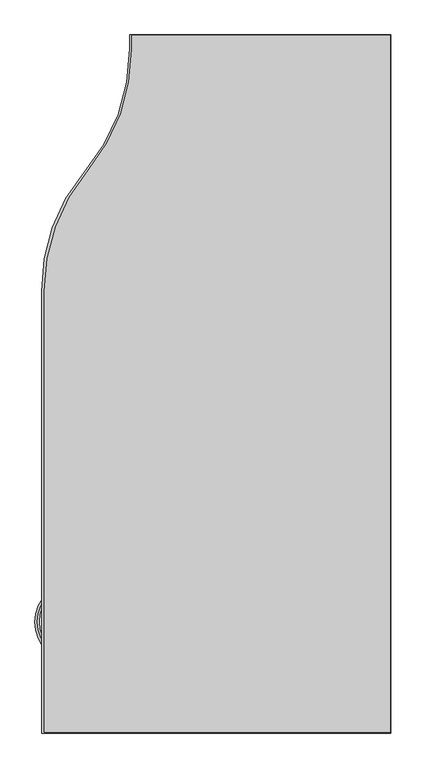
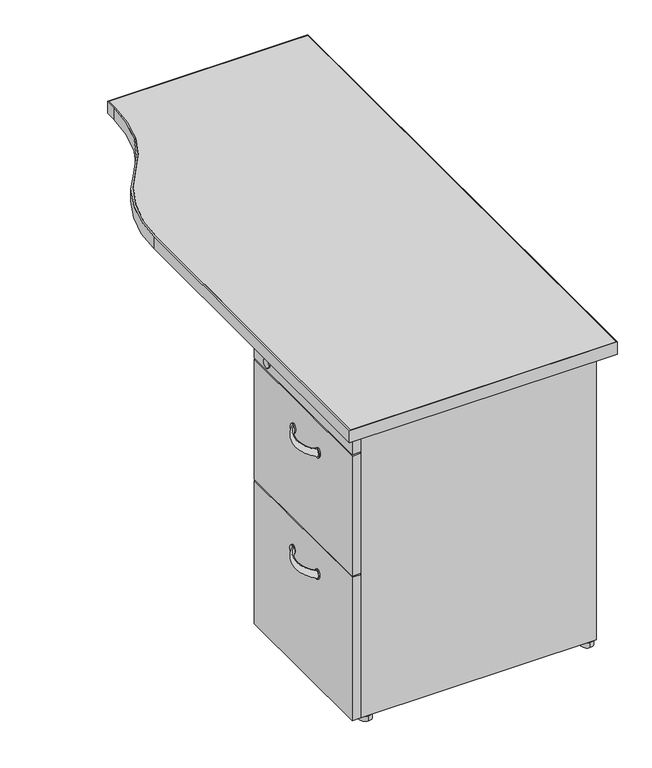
"""IFC4 building model written with IfcOpenShell, lengths in millimetres: furniture geometry, Steelcase - Kick Freestanding - Desk - Single Pedestal Transition Return : 18D x 48W - Right - File/File."""

from ifc_helpers import new_model, si_unit, point, frame, frame_2d, origin, origin_with_axes, place, context, project, spatial, polyline, circle_curve, ellipse_curve, trimmed, segment, composite_curve, outline, extrude, source, transform, mapped, element, save
from ifc_brep_helpers import plane_surface, cylinder_surface, revolved_surface, extruded_surface, advanced_brep


def furniture_ae295d56(model_context):
    return source(origin(), model_context, "Body", "SolidModel", [
        advanced_brep(
        [(1567.1281641, -1621.6132511, 586.4818798), (1567.1281641, -1621.6132511, 569.2783404), (1567.7941808, -1522.4632386, 586.4818798), (1567.7941808, -1522.4632386, 569.2783404)],
        [
            (0, 1, ellipse_curve(frame((1567.1281641, -1621.6132511, 577.8801101), z_axis=(0.7327226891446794, -0.6805273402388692, 0.0), x_axis=(0.0, 0.0, -1.0)), 8.6017697, 3.6448177)),
            (1, 0, ellipse_curve(frame((1567.1281641, -1621.6132511, 577.8801101), z_axis=(0.7327226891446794, -0.6805273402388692, 0.0), x_axis=(0.0, 0.0, -1.0)), 8.6017697, 3.6448177)),
            (2, 3, ellipse_curve(frame((1567.7941808, -1522.4632386, 577.8801101), z_axis=(0.7417987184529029, 0.670622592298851, 0.0), x_axis=(0.0, 0.0, -1.0)), 8.6017697, 3.6448177)),
            (3, 2, ellipse_curve(frame((1567.7941808, -1522.4632386, 577.8801101), z_axis=(0.7417987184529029, 0.670622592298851, 0.0), x_axis=(0.0, 0.0, -1.0)), 8.6017697, 3.6448177)),
            (3, 1, circle_curve(frame((1612.8882961, -1572.3433908, 569.2783404), z_axis=(0.0, 0.0, 1.0), x_axis=(-0.6805273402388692, -0.7327226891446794, 0.0)), 67.2421655)),
            (0, 2, circle_curve(frame((1612.8882961, -1572.3433908, 586.4818798), z_axis=(0.0, 0.0, -1.0), x_axis=(-0.6805273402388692, -0.7327226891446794, 0.0)), 67.2421655)),
        ],
        [
            plane_surface(frame((1566.3645897, -1622.4353903, 0.0), z_axis=(0.7327226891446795, -0.6805273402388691, 0.0), x_axis=(0.0, 0.0, 1.0))),
            plane_surface(frame((1567.0417199, -1521.6309157, 0.0), z_axis=(0.7417987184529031, 0.6706225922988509, 0.0), x_axis=(0.0, 0.0, 1.0))),
            revolved_surface(trimmed(ellipse_curve(frame((1567.1281641, -1621.6132511, 577.8801101), z_axis=(0.7327226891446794, -0.6805273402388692, 0.0), x_axis=(0.0, 0.0, -1.0)), 8.6017697, 3.6448177), [point((1567.1281641, -1621.6132511, 586.4818798))], [point((1567.1281641, -1621.6132511, 569.2783404))], True, "CARTESIAN"), (1612.8882961, -1572.3433908, 0.0), (0.0, 0.0, -1.0)),
            revolved_surface(trimmed(ellipse_curve(frame((1567.1281641, -1621.6132511, 577.8801101), z_axis=(0.7327226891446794, -0.6805273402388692, 0.0), x_axis=(0.0, 0.0, -1.0)), 8.6017697, 3.6448177), [point((1567.1281641, -1621.6132511, 569.2783404))], [point((1567.1281641, -1621.6132511, 586.4818798))], True, "CARTESIAN"), (1612.8882961, -1572.3433908, 0.0), (0.0, 0.0, -1.0)),
        ],
        [
            (0, [[1, 2]]),
            (1, [[3, 4]]),
            (2, [[5, -1, 6, -4]]),
            (3, [[-6, -2, -5, -3]]),
        ],
    ),
        advanced_brep(
        [(1567.1281641, -1621.6132511, 293.5881298), (1567.1281641, -1621.6132511, 276.3845904), (1567.7941808, -1522.4632386, 293.5881298), (1567.7941808, -1522.4632386, 276.3845904)],
        [
            (0, 1, ellipse_curve(frame((1567.1281641, -1621.6132511, 284.9863601), z_axis=(0.7327226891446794, -0.6805273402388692, 0.0), x_axis=(0.0, 0.0, -1.0)), 8.6017697, 3.6448177)),
            (1, 0, ellipse_curve(frame((1567.1281641, -1621.6132511, 284.9863601), z_axis=(0.7327226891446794, -0.6805273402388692, 0.0), x_axis=(0.0, 0.0, -1.0)), 8.6017697, 3.6448177)),
            (2, 3, ellipse_curve(frame((1567.7941808, -1522.4632386, 284.9863601), z_axis=(0.7417987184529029, 0.670622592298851, 0.0), x_axis=(0.0, 0.0, -1.0)), 8.6017697, 3.6448177)),
            (3, 2, ellipse_curve(frame((1567.7941808, -1522.4632386, 284.9863601), z_axis=(0.7417987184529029, 0.670622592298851, 0.0), x_axis=(0.0, 0.0, -1.0)), 8.6017697, 3.6448177)),
            (3, 1, circle_curve(frame((1612.8882961, -1572.3433908, 276.3845904), z_axis=(0.0, 0.0, 1.0), x_axis=(-0.6805273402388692, -0.7327226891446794, 0.0)), 67.2421655)),
            (0, 2, circle_curve(frame((1612.8882961, -1572.3433908, 293.5881298), z_axis=(0.0, 0.0, -1.0), x_axis=(-0.6805273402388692, -0.7327226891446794, 0.0)), 67.2421655)),
        ],
        [
            plane_surface(frame((1566.3645897, -1622.4353903, 0.0), z_axis=(0.7327226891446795, -0.6805273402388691, 0.0), x_axis=(0.0, 0.0, 1.0))),
            plane_surface(frame((1567.0417199, -1521.6309157, 0.0), z_axis=(0.7417987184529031, 0.6706225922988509, 0.0), x_axis=(0.0, 0.0, 1.0))),
            revolved_surface(trimmed(ellipse_curve(frame((1567.1281641, -1621.6132511, 284.9863601), z_axis=(0.7327226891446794, -0.6805273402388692, 0.0), x_axis=(0.0, 0.0, -1.0)), 8.6017697, 3.6448177), [point((1567.1281641, -1621.6132511, 293.5881298))], [point((1567.1281641, -1621.6132511, 276.3845904))], True, "CARTESIAN"), (1612.8882961, -1572.3433908, 0.0), (0.0, 0.0, -1.0)),
            revolved_surface(trimmed(ellipse_curve(frame((1567.1281641, -1621.6132511, 284.9863601), z_axis=(0.7327226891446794, -0.6805273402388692, 0.0), x_axis=(0.0, 0.0, -1.0)), 8.6017697, 3.6448177), [point((1567.1281641, -1621.6132511, 276.3845904))], [point((1567.1281641, -1621.6132511, 293.5881298))], True, "CARTESIAN"), (1612.8882961, -1572.3433908, 0.0), (0.0, 0.0, -1.0)),
        ],
        [
            (0, [[1, 2]]),
            (1, [[3, 4]]),
            (2, [[5, -1, 6, -4]]),
            (3, [[-6, -2, -5, -3]]),
        ],
    ),
        advanced_brep(
        [(1564.8733086, -1429.0380273, 671.1566635), (1564.8733086, -1408.7180273, 671.1566635), (1567.9720601, -1429.0380273, 671.1566635), (1567.9720601, -1408.7180273, 671.1566635)],
        [
            (0, 1, circle_curve(frame((1564.8733086, -1418.8780273, 671.1566635), z_axis=(-1.0, 0.0, 0.0), x_axis=(0.0, 1.0, 0.0)), 10.16)),
            (1, 0, circle_curve(frame((1564.8733086, -1418.8780273, 671.1566635), z_axis=(-1.0, 0.0, 0.0), x_axis=(0.0, 1.0, 0.0)), 10.16)),
            (2, 3, circle_curve(frame((1567.9720601, -1418.8780273, 671.1566635), z_axis=(1.0, 0.0, 0.0), x_axis=(0.0, 1.0, 0.0)), 10.16)),
            (3, 2, circle_curve(frame((1567.9720601, -1418.8780273, 671.1566635), z_axis=(1.0, 0.0, 0.0), x_axis=(0.0, 1.0, 0.0)), 10.16)),
            (0, 2),
            (3, 1),
        ],
        [
            plane_surface(frame((1564.8733086, -1408.7180273, 671.1566635), z_axis=(-1.0, 0.0, 0.0), x_axis=(0.0, 0.0, -1.0))),
            plane_surface(frame((1567.9720601, -1408.7180273, 671.1566635), z_axis=(1.0, 0.0, 0.0), x_axis=(0.0, 0.0, 1.0))),
            cylinder_surface(frame((1567.9720601, -1418.8780273, 671.1566635), z_axis=(-1.0, 0.0, 0.0), x_axis=(0.0, 1.0, 0.0)), 10.16),
        ],
        [
            (0, [[1, 2]]),
            (1, [[3, 4]]),
            (2, [[-1, 5, -4, 6]]),
            (2, [[-2, -6, -3, -5]]),
        ],
    ),
        advanced_brep(
        [(1564.8733086, -1620.2140492, 589.4466513), (1564.8733086, -1620.2140492, 566.5866513), (1567.9720601, -1620.2140492, 589.4466513), (1567.9720601, -1620.2140492, 566.5866513)],
        [
            (0, 1, ellipse_curve(frame((1564.8733086, -1620.2140492, 578.0166513), z_axis=(-1.0, 0.0, 0.0), x_axis=(0.0, 0.0, -1.0)), 11.43, 8.0054005)),
            (1, 0, ellipse_curve(frame((1564.8733086, -1620.2140492, 578.0166513), z_axis=(-1.0, 0.0, 0.0), x_axis=(0.0, 0.0, -1.0)), 11.43, 8.0054005)),
            (2, 3, ellipse_curve(frame((1567.9720601, -1620.2140492, 578.0166513), z_axis=(1.0, 0.0, 0.0), x_axis=(0.0, 0.0, -1.0)), 11.43, 8.0054005)),
            (3, 2, ellipse_curve(frame((1567.9720601, -1620.2140492, 578.0166513), z_axis=(1.0, 0.0, 0.0), x_axis=(0.0, 0.0, -1.0)), 11.43, 8.0054005)),
            (0, 2),
            (3, 1),
        ],
        [
            plane_surface(frame((1564.8733086, -1408.7180273, 671.1566635), z_axis=(-1.0, 0.0, 0.0), x_axis=(0.0, 0.0, -1.0))),
            plane_surface(frame((1567.9720601, -1408.7180273, 671.1566635), z_axis=(1.0, 0.0, 0.0), x_axis=(0.0, 0.0, 1.0))),
            extruded_surface(trimmed(ellipse_curve(frame((1571.9598601, -1620.2140492, 578.0166513), z_axis=(-1.0, 0.0, 0.0), x_axis=(0.0, 0.0, -1.0)), 11.43, 8.0054005), [point((1571.9598601, -1620.2140492, 589.4466513))], [point((1571.9598601, -1620.2140492, 566.5866513))], True, "CARTESIAN"), (-3.098751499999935, 0.0, 0.0), 3.098751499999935),
            extruded_surface(trimmed(ellipse_curve(frame((1571.9598601, -1620.2140492, 578.0166513), z_axis=(-1.0, 0.0, 0.0), x_axis=(0.0, 0.0, -1.0)), 11.43, 8.0054005), [point((1571.9598601, -1620.2140492, 566.5866513))], [point((1571.9598601, -1620.2140492, 589.4466513))], True, "CARTESIAN"), (-3.098751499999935, 0.0, 0.0), 3.098751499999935),
        ],
        [
            (0, [[1, 2]]),
            (1, [[3, 4]]),
            (2, [[-1, 5, -4, 6]]),
            (3, [[-2, -6, -3, -5]]),
        ],
    ),
        advanced_brep(
        [(1564.8733086, -1522.8852323, 589.4466513), (1564.8733086, -1522.8852323, 566.5866513), (1567.9720601, -1522.8852323, 589.4466513), (1567.9720601, -1522.8852323, 566.5866513)],
        [
            (0, 1, ellipse_curve(frame((1564.8733086, -1522.8852323, 578.0166513), z_axis=(-1.0, 0.0, 0.0), x_axis=(0.0, 0.0, -1.0)), 11.43, 8.0054005)),
            (1, 0, ellipse_curve(frame((1564.8733086, -1522.8852323, 578.0166513), z_axis=(-1.0, 0.0, 0.0), x_axis=(0.0, 0.0, -1.0)), 11.43, 8.0054005)),
            (2, 3, ellipse_curve(frame((1567.9720601, -1522.8852323, 578.0166513), z_axis=(1.0, 0.0, 0.0), x_axis=(0.0, 0.0, -1.0)), 11.43, 8.0054005)),
            (3, 2, ellipse_curve(frame((1567.9720601, -1522.8852323, 578.0166513), z_axis=(1.0, 0.0, 0.0), x_axis=(0.0, 0.0, -1.0)), 11.43, 8.0054005)),
            (0, 2),
            (3, 1),
        ],
        [
            plane_surface(frame((1564.8733086, -1408.7180273, 671.1566635), z_axis=(-1.0, 0.0, 0.0), x_axis=(0.0, 0.0, -1.0))),
            plane_surface(frame((1567.9720601, -1408.7180273, 671.1566635), z_axis=(1.0, 0.0, 0.0), x_axis=(0.0, 0.0, 1.0))),
            extruded_surface(trimmed(ellipse_curve(frame((1571.9598601, -1522.8852323, 578.0166513), z_axis=(-1.0, 0.0, 0.0), x_axis=(0.0, 0.0, -1.0)), 11.43, 8.0054005), [point((1571.9598601, -1522.8852323, 589.4466513))], [point((1571.9598601, -1522.8852323, 566.5866513))], True, "CARTESIAN"), (-3.098751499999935, 0.0, 0.0), 3.098751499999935),
            extruded_surface(trimmed(ellipse_curve(frame((1571.9598601, -1522.8852323, 578.0166513), z_axis=(-1.0, 0.0, 0.0), x_axis=(0.0, 0.0, -1.0)), 11.43, 8.0054005), [point((1571.9598601, -1522.8852323, 566.5866513))], [point((1571.9598601, -1522.8852323, 589.4466513))], True, "CARTESIAN"), (-3.098751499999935, 0.0, 0.0), 3.098751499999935),
        ],
        [
            (0, [[1, 2]]),
            (1, [[3, 4]]),
            (2, [[-1, 5, -4, 6]]),
            (3, [[-2, -6, -3, -5]]),
        ],
    ),
        advanced_brep(
        [(1564.8733086, -1618.1551434, 296.0079573), (1564.8733086, -1618.1551434, 273.1479573), (1567.9720601, -1618.1551434, 296.0079573), (1567.9720601, -1618.1551434, 273.1479573)],
        [
            (0, 1, ellipse_curve(frame((1564.8733086, -1618.1551434, 284.5779573), z_axis=(-1.0, 0.0, 0.0), x_axis=(0.0, 0.0, -1.0)), 11.43, 8.0054005)),
            (1, 0, ellipse_curve(frame((1564.8733086, -1618.1551434, 284.5779573), z_axis=(-1.0, 0.0, 0.0), x_axis=(0.0, 0.0, -1.0)), 11.43, 8.0054005)),
            (2, 3, ellipse_curve(frame((1567.9720601, -1618.1551434, 284.5779573), z_axis=(1.0, 0.0, 0.0), x_axis=(0.0, 0.0, -1.0)), 11.43, 8.0054005)),
            (3, 2, ellipse_curve(frame((1567.9720601, -1618.1551434, 284.5779573), z_axis=(1.0, 0.0, 0.0), x_axis=(0.0, 0.0, -1.0)), 11.43, 8.0054005)),
            (0, 2),
            (3, 1),
        ],
        [
            plane_surface(frame((1564.8733086, -1408.7180273, 671.1566635), z_axis=(-1.0, 0.0, 0.0), x_axis=(0.0, 0.0, -1.0))),
            plane_surface(frame((1567.9720601, -1408.7180273, 671.1566635), z_axis=(1.0, 0.0, 0.0), x_axis=(0.0, 0.0, 1.0))),
            extruded_surface(trimmed(ellipse_curve(frame((1571.9598601, -1618.1551434, 284.5779573), z_axis=(-1.0, 0.0, 0.0), x_axis=(0.0, 0.0, -1.0)), 11.43, 8.0054005), [point((1571.9598601, -1618.1551434, 296.0079573))], [point((1571.9598601, -1618.1551434, 273.1479573))], True, "CARTESIAN"), (-3.098751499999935, 0.0, 0.0), 3.098751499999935),
            extruded_surface(trimmed(ellipse_curve(frame((1571.9598601, -1618.1551434, 284.5779573), z_axis=(-1.0, 0.0, 0.0), x_axis=(0.0, 0.0, -1.0)), 11.43, 8.0054005), [point((1571.9598601, -1618.1551434, 273.1479573))], [point((1571.9598601, -1618.1551434, 296.0079573))], True, "CARTESIAN"), (-3.098751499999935, 0.0, 0.0), 3.098751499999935),
        ],
        [
            (0, [[1, 2]]),
            (1, [[3, 4]]),
            (2, [[-1, 5, -4, 6]]),
            (3, [[-2, -6, -3, -5]]),
        ],
    ),
        advanced_brep(
        [(1564.8733086, -1520.8263266, 296.0079573), (1564.8733086, -1520.8263266, 273.1479573), (1567.9720601, -1520.8263266, 296.0079573), (1567.9720601, -1520.8263266, 273.1479573)],
        [
            (0, 1, ellipse_curve(frame((1564.8733086, -1520.8263266, 284.5779573), z_axis=(-1.0, 0.0, 0.0), x_axis=(0.0, 0.0, -1.0)), 11.43, 8.0054005)),
            (1, 0, ellipse_curve(frame((1564.8733086, -1520.8263266, 284.5779573), z_axis=(-1.0, 0.0, 0.0), x_axis=(0.0, 0.0, -1.0)), 11.43, 8.0054005)),
            (2, 3, ellipse_curve(frame((1567.9720601, -1520.8263266, 284.5779573), z_axis=(1.0, 0.0, 0.0), x_axis=(0.0, 0.0, -1.0)), 11.43, 8.0054005)),
            (3, 2, ellipse_curve(frame((1567.9720601, -1520.8263266, 284.5779573), z_axis=(1.0, 0.0, 0.0), x_axis=(0.0, 0.0, -1.0)), 11.43, 8.0054005)),
            (0, 2),
            (3, 1),
        ],
        [
            plane_surface(frame((1564.8733086, -1408.7180273, 671.1566635), z_axis=(-1.0, 0.0, 0.0), x_axis=(0.0, 0.0, -1.0))),
            plane_surface(frame((1567.9720601, -1408.7180273, 671.1566635), z_axis=(1.0, 0.0, 0.0), x_axis=(0.0, 0.0, 1.0))),
            extruded_surface(trimmed(ellipse_curve(frame((1571.9598601, -1520.8263266, 284.5779573), z_axis=(-1.0, 0.0, 0.0), x_axis=(0.0, 0.0, -1.0)), 11.43, 8.0054005), [point((1571.9598601, -1520.8263266, 296.0079573))], [point((1571.9598601, -1520.8263266, 273.1479573))], True, "CARTESIAN"), (-3.098751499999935, 0.0, 0.0), 3.098751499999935),
            extruded_surface(trimmed(ellipse_curve(frame((1571.9598601, -1520.8263266, 284.5779573), z_axis=(-1.0, 0.0, 0.0), x_axis=(0.0, 0.0, -1.0)), 11.43, 8.0054005), [point((1571.9598601, -1520.8263266, 273.1479573))], [point((1571.9598601, -1520.8263266, 296.0079573))], True, "CARTESIAN"), (-3.098751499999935, 0.0, 0.0), 3.098751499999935),
        ],
        [
            (0, [[1, 2]]),
            (1, [[3, 4]]),
            (2, [[-1, 5, -4, 6]]),
            (3, [[-2, -6, -3, -5]]),
        ],
    ),
        extrude(outline(polyline([(1567.9720601, -1752.7145982), (1567.9720601, -1367.7776054), (1587.9111086, -1367.7776054), (1587.9111086, -1752.7145982), (1567.9720601, -1752.7145982)])), frame((0.0, 0.0, 360.6545895), z_axis=(0.0, 0.0, 1.0), x_axis=(1.0, 0.0, 0.0)), (0.0, 0.0, 1.0), 288.9250242),
        extrude(outline(polyline([(1567.9720601, -1752.7145982), (1567.9720601, -1367.7776054), (1587.9111086, -1367.7776054), (1587.9111086, -1752.7145982), (1567.9720601, -1752.7145982)])), frame((0.0, 0.0, 12.7), z_axis=(0.0, 0.0, 1.0), x_axis=(1.0, 0.0, 0.0)), (0.0, 0.0, 1.0), 344.7796016),
        extrude(outline(polyline([(1567.9720601, -1752.7145982), (1567.9720601, -1367.7776054), (1587.9111086, -1367.7776054), (1587.9111086, -1752.7145982), (1567.9720601, -1752.7145982)])), frame((0.0, 0.0, 652.7545653), z_axis=(0.0, 0.0, 1.0), x_axis=(1.0, 0.0, 0.0)), (0.0, 0.0, 1.0), 40.6400339),
        extrude(outline(composite_curve([segment(trimmed(circle_curve(frame_2d((2110.0114425, -1740.1382652)), 13.97), [point((2110.0114425, -1754.1082652))], [point((2110.0114425, -1726.1682652))], False, "CARTESIAN"), True, "CONTINUOUS"), segment(trimmed(circle_curve(frame_2d((2110.0114425, -1740.1382652)), 13.97), [point((2110.0114425, -1726.1682652))], [point((2110.0114425, -1754.1082652))], False, "CARTESIAN"), True, "CONTINUOUS")], self_intersect=False)), origin_with_axes(), (0.0, 0.0, 1.0), 12.446),
        extrude(outline(composite_curve([segment(trimmed(circle_curve(frame_2d((1605.0594425, -1740.1382652)), 13.97), [point((1605.0594425, -1754.1082652))], [point((1605.0594425, -1726.1682652))], False, "CARTESIAN"), True, "CONTINUOUS"), segment(trimmed(circle_curve(frame_2d((1605.0594425, -1740.1382652)), 13.97), [point((1605.0594425, -1726.1682652))], [point((1605.0594425, -1754.1082652))], False, "CARTESIAN"), True, "CONTINUOUS")], self_intersect=False)), origin_with_axes(), (0.0, 0.0, 1.0), 12.446),
        extrude(outline(composite_curve([segment(trimmed(circle_curve(frame_2d((2110.0114425, -1380.4776054)), 13.97), [point((2110.0114425, -1394.4476054))], [point((2110.0114425, -1366.5076054))], False, "CARTESIAN"), True, "CONTINUOUS"), segment(trimmed(circle_curve(frame_2d((2110.0114425, -1380.4776054)), 13.97), [point((2110.0114425, -1366.5076054))], [point((2110.0114425, -1394.4476054))], False, "CARTESIAN"), True, "CONTINUOUS")], self_intersect=False)), origin_with_axes(), (0.0, 0.0, 1.0), 12.446),
        extrude(outline(composite_curve([segment(trimmed(circle_curve(frame_2d((1604.2584597, -1380.4776054)), 12.7), [point((1604.2584597, -1393.1776054))], [point((1604.2584597, -1367.7776054))], False, "CARTESIAN"), True, "CONTINUOUS"), segment(trimmed(circle_curve(frame_2d((1604.2584597, -1380.4776054)), 12.7), [point((1604.2584597, -1367.7776054))], [point((1604.2584597, -1393.1776054))], False, "CARTESIAN"), True, "CONTINUOUS")], self_intersect=False)), origin_with_axes(), (0.0, 0.0, 1.0), 12.446),
        extrude(outline(polyline([(2124.4860601, -1367.7776054), (2124.4860601, -1752.7145982), (1587.9111086, -1752.7145982), (1587.9111086, -1367.7776054), (2124.4860601, -1367.7776054)]), holes=[polyline([(2099.0860609, -1387.6149846), (1608.4850708, -1387.6149846), (1608.4850708, -1732.8771996), (2099.0860609, -1732.8771996), (2099.0860609, -1387.6149846)])]), frame((0.0, 0.0, 12.446), z_axis=(0.0, 0.0, 1.0), x_axis=(1.0, 0.0, 0.0)), (0.0, 0.0, 1.0), 682.498),
        extrude(outline(composite_curve([segment(polyline([(1707.9294594, -546.8145152), (2163.8594425, -546.8145152), (2163.8594425, -1766.0145152), (1554.2594425, -1766.0145152), (1554.2594425, -994.1085152)]), True, "CONTINUOUS"), segment(trimmed(circle_curve(frame_2d((1864.0239413, -987.7058619)), 309.8306613), [point((1554.2594425, -994.1085152))], [point((1628.457587, -786.4509703))], False, "CARTESIAN"), True, "CONTINUOUS"), segment(trimmed(circle_curve(frame_2d((1376.3728371, -571.0836731)), 331.5566223), [point((1628.457587, -786.4509703))], [point((1707.9294594, -571.0836731))], True, "CARTESIAN"), True, "CONTINUOUS"), segment(polyline([(1707.9294594, -571.0836731), (1707.9294594, -546.8145152)]), True, "CONTINUOUS")], self_intersect=False), holes=[composite_curve([segment(polyline([(1710.9012257, -547.8051152), (1710.9012257, -572.1320079)]), True, "CONTINUOUS"), segment(trimmed(circle_curve(frame_2d((1386.0725345, -574.5942763)), 324.8380233), [point((1710.9012257, -572.1320079))], [point((1635.1600947, -783.1011797))], False, "CARTESIAN"), True, "CONTINUOUS"), segment(trimmed(circle_curve(frame_2d((1887.2347336, -994.1085152)), 328.7335079), [point((1635.1600947, -783.1011797))], [point((1558.5012257, -994.1085152))], True, "CARTESIAN"), True, "CONTINUOUS"), segment(polyline([(1558.5012257, -994.1085152), (1558.5012257, -1764.2619332), (2162.8688425, -1764.2619332), (2162.8688425, -547.8051152), (1710.9012257, -547.8051152)]), True, "CONTINUOUS")], self_intersect=False)]), frame((0.0, 0.0, 694.944), z_axis=(0.0, 0.0, 1.0), x_axis=(1.0, 0.0, 0.0)), (0.0, 0.0, 1.0), 28.956),
        extrude(outline(composite_curve([segment(polyline([(2162.8688425, -547.8051152), (2162.8688425, -1764.2619332), (1558.5012257, -1764.2619332), (1558.5012257, -994.1085152)]), True, "CONTINUOUS"), segment(trimmed(circle_curve(frame_2d((1887.2347336, -994.1085152)), 328.7335079), [point((1558.5012257, -994.1085152))], [point((1635.1600947, -783.1011797))], False, "CARTESIAN"), True, "CONTINUOUS"), segment(trimmed(circle_curve(frame_2d((1386.0725345, -574.5942763)), 324.8380233), [point((1635.1600947, -783.1011797))], [point((1710.9012257, -572.1320079))], True, "CARTESIAN"), True, "CONTINUOUS"), segment(polyline([(1710.9012257, -572.1320079), (1710.9012257, -547.8051152), (2162.8688425, -547.8051152)]), True, "CONTINUOUS")], self_intersect=False)), frame((0.0, 0.0, 694.944), z_axis=(0.0, 0.0, 1.0), x_axis=(1.0, 0.0, 0.0)), (0.0, 0.0, 1.0), 28.956),
    ])


if __name__ == "__main__":
    model = new_model("IFC4")
    model_context = context("Model", 3, world=origin())
    ifc_project = project(units=[si_unit("LENGTHUNIT", "METRE", prefix="MILLI")], contexts=[model_context])
    site = spatial("IfcSite", under=ifc_project)
    building = spatial("IfcBuilding", under=site)
    placement = place(None, origin())
    furniture_shape = furniture_ae295d56(model_context)
    element("IfcFurniture", 1, ObjectType="Steelcase - Kick Freestanding - Desk - Single Pedestal Transition Return : 18D x 48W - Right - File/File", at=placement, inside=building, context=model_context, shape_type="MappedRepresentation", body=[
        mapped(furniture_shape, transform((0.0, 0.0, 0.0), x_axis=(1.0, 0.0, 0.0), y_axis=(0.0, 1.0, 0.0), z_axis=(0.0, 0.0, 1.0))),
    ])
    save(model, "model.ifc")
